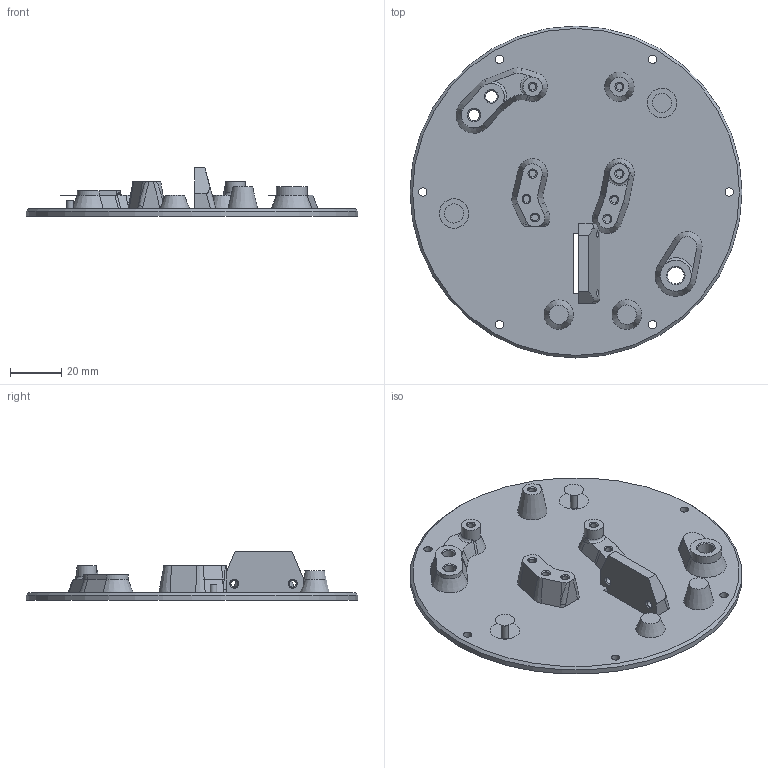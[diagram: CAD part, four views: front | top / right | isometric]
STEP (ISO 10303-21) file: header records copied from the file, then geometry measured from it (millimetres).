
FILE_DESCRIPTION(/* description */ (''),/* implementation_level */ '2;1');
FILE_NAME(/* name */ 'C:\Users\uhlma\OneDrive\Flaura\Produktentwicklung\Gehaeuse\CAD-Konstruktion\Prototyp 9\Thingiverse_Upload\Inventor\Housing_Bottom.stp',/* time_stamp */ '2021-07-25T11:44:39+02:00',/* author */ ('uhlma'),/* organization */ (''),/* preprocessor_version */ 'ST-DEVELOPER v18',/* originating_system */ 'Autodesk Inventor 2020',/* authorisation */ '');
FILE_SCHEMA (('AUTOMOTIVE_DESIGN { 1 0 10303 214 3 1 1 }'));
Length unit declared in the file: millimetre
Products named in the file (1): Topf_Boden_210715
Bounding box: 130 x 130 x 19 mm (x, y, z)
Volume: 51752.6 mm3; surface area: 32554.9 mm2
Topology: 1 solids, 1 shells, 138 faces, 347 edges, 233 vertices
Faces by surface type: plane 58, cone 36, cylinder 34, torus 6, bspline 4
Full cylindrical faces by diameter (mm): 2.7 x14, 2.8 x2, 3.3 x6, 4.5 x2, 6.5 x1, 7.5 x1, 7.6 x1, 12.1 x1, 130 x1
Entity records: 4606 total; most frequent: CARTESIAN_POINT 1078, DIRECTION 763, ORIENTED_EDGE 694, EDGE_CURVE 347, AXIS2_PLACEMENT_3D 305, VERTEX_POINT 233, EDGE_LOOP 184, CIRCLE 156
